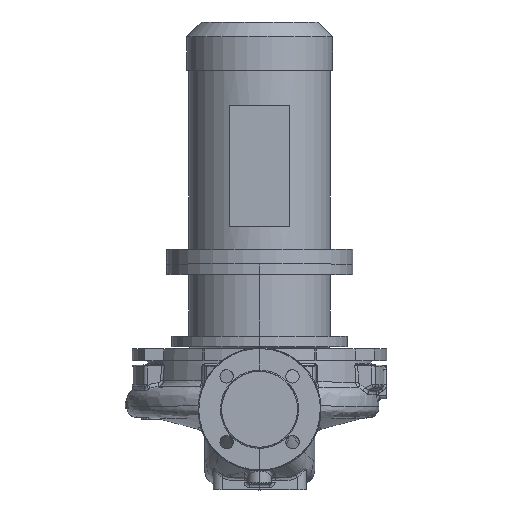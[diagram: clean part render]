
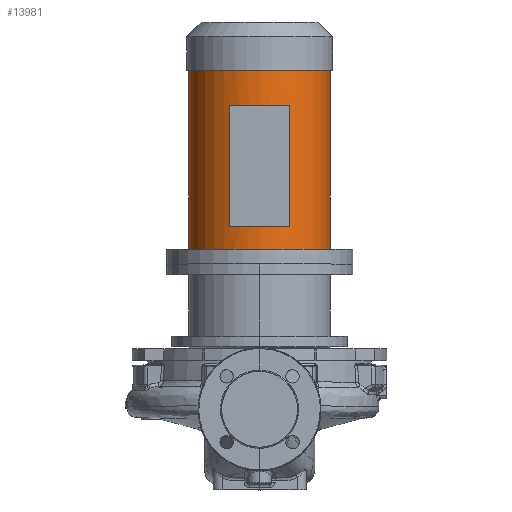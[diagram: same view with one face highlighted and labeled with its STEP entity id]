
A CAD part, top view. The second image highlights one B-rep face of the part: STEP entity #13981.
In plain terms, the highlighted cylindrical face has radius 95 mm (diameter 190 mm), a partial arc.
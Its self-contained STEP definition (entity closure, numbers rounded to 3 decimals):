
#1015 = DIRECTION ( 'NONE',  ( 0., -1., 0. ) ) ;
#1199 = DIRECTION ( 'NONE',  ( 0., -1., 0. ) ) ;
#2867 = DIRECTION ( 'NONE',  ( 0., -1., 0. ) ) ;
#3968 = CARTESIAN_POINT ( 'NONE',  ( -95., 455.3, 0. ) ) ;
#5078 = EDGE_CURVE ( 'NONE', #17536, #20424, #38684, .T. ) ;
#6304 = AXIS2_PLACEMENT_3D ( 'NONE', #75407, #2867, #33208 ) ;
#7262 = VECTOR ( 'NONE', #77972, 1000. ) ;
#7363 = VECTOR ( 'NONE', #59380, 1000. ) ;
#7704 = VERTEX_POINT ( 'NONE', #37218 ) ;
#8232 = AXIS2_PLACEMENT_3D ( 'NONE', #36289, #72943, #71891 ) ;
#9202 = AXIS2_PLACEMENT_3D ( 'NONE', #18943, #1015, #25220 ) ;
#9244 = EDGE_CURVE ( 'NONE', #10898, #34987, #66499, .T. ) ;
#10387 = ORIENTED_EDGE ( 'NONE', *, *, #5078, .T. ) ;
#10898 = VERTEX_POINT ( 'NONE', #45421 ) ;
#13981 = ADVANCED_FACE ( 'NONE', ( #64071, #18821 ), #52704, .T. ) ;
#13993 = CARTESIAN_POINT ( 'NONE',  ( 0., 215.3, 0. ) ) ;
#14274 = DIRECTION ( 'NONE',  ( 0., -1., 0. ) ) ;
#15472 = CARTESIAN_POINT ( 'NONE',  ( -95., 215.3, 0. ) ) ;
#17536 = VERTEX_POINT ( 'NONE', #55886 ) ;
#17790 = EDGE_LOOP ( 'NONE', ( #24924, #38195, #37657, #25066 ) ) ;
#18821 = FACE_OUTER_BOUND ( 'NONE', #69427, .T. ) ;
#18943 = CARTESIAN_POINT ( 'NONE',  ( 0., 195.3, 0. ) ) ;
#18992 = CIRCLE ( 'NONE', #33151, 95. ) ;
#19668 = LINE ( 'NONE', #73221, #63053 ) ;
#20424 = VERTEX_POINT ( 'NONE', #3968 ) ;
#23395 = CARTESIAN_POINT ( 'NONE',  ( -40.5, 195.3, 85.935 ) ) ;
#24924 = ORIENTED_EDGE ( 'NONE', *, *, #9244, .F. ) ;
#25066 = ORIENTED_EDGE ( 'NONE', *, *, #54076, .F. ) ;
#25220 = DIRECTION ( 'NONE',  ( 1., 0., 0. ) ) ;
#27364 = ORIENTED_EDGE ( 'NONE', *, *, #54202, .T. ) ;
#28153 = VERTEX_POINT ( 'NONE', #15472 ) ;
#28965 = AXIS2_PLACEMENT_3D ( 'NONE', #57967, #33994, #64534 ) ;
#29135 = ORIENTED_EDGE ( 'NONE', *, *, #59652, .F. ) ;
#31971 = VECTOR ( 'NONE', #47868, 1000. ) ;
#32814 = CARTESIAN_POINT ( 'NONE',  ( 95., 215.3, 0. ) ) ;
#33151 = AXIS2_PLACEMENT_3D ( 'NONE', #13993, #14274, #56461 ) ;
#33208 = DIRECTION ( 'NONE',  ( 1., 0., 0. ) ) ;
#33637 = CARTESIAN_POINT ( 'NONE',  ( -40.5, 408.3, 85.935 ) ) ;
#33813 = LINE ( 'NONE', #72066, #7363 ) ;
#33994 = DIRECTION ( 'NONE',  ( 0., 1., 0. ) ) ;
#34987 = VERTEX_POINT ( 'NONE', #33637 ) ;
#36289 = CARTESIAN_POINT ( 'NONE',  ( 0., 455.3, 0. ) ) ;
#37218 = CARTESIAN_POINT ( 'NONE',  ( 40.5, 245.3, 85.935 ) ) ;
#37657 = ORIENTED_EDGE ( 'NONE', *, *, #65644, .F. ) ;
#38195 = ORIENTED_EDGE ( 'NONE', *, *, #55392, .F. ) ;
#38684 = CIRCLE ( 'NONE', #8232, 95. ) ;
#42101 = EDGE_CURVE ( 'NONE', #17536, #53203, #33813, .T. ) ;
#45421 = CARTESIAN_POINT ( 'NONE',  ( 40.5, 408.3, 85.935 ) ) ;
#47868 = DIRECTION ( 'NONE',  ( 0., -1., 0. ) ) ;
#48651 = CIRCLE ( 'NONE', #28965, 95. ) ;
#52704 = CYLINDRICAL_SURFACE ( 'NONE', #9202, 95. ) ;
#53203 = VERTEX_POINT ( 'NONE', #32814 ) ;
#54076 = EDGE_CURVE ( 'NONE', #34987, #73294, #60249, .T. ) ;
#54202 = EDGE_CURVE ( 'NONE', #20424, #28153, #19668, .T. ) ;
#55392 = EDGE_CURVE ( 'NONE', #7704, #10898, #71486, .T. ) ;
#55886 = CARTESIAN_POINT ( 'NONE',  ( 95., 455.3, 0. ) ) ;
#56461 = DIRECTION ( 'NONE',  ( 1., 0., 0. ) ) ;
#57967 = CARTESIAN_POINT ( 'NONE',  ( 0., 245.3, 0. ) ) ;
#58444 = CARTESIAN_POINT ( 'NONE',  ( 40.5, 195.3, 85.935 ) ) ;
#59380 = DIRECTION ( 'NONE',  ( 0., -1., 0. ) ) ;
#59652 = EDGE_CURVE ( 'NONE', #53203, #28153, #18992, .T. ) ;
#60249 = LINE ( 'NONE', #23395, #31971 ) ;
#63053 = VECTOR ( 'NONE', #1199, 1000. ) ;
#63998 = ORIENTED_EDGE ( 'NONE', *, *, #42101, .F. ) ;
#64071 = FACE_BOUND ( 'NONE', #17790, .T. ) ;
#64534 = DIRECTION ( 'NONE',  ( -1., 0., 0. ) ) ;
#65133 = CARTESIAN_POINT ( 'NONE',  ( -40.5, 245.3, 85.935 ) ) ;
#65644 = EDGE_CURVE ( 'NONE', #73294, #7704, #48651, .T. ) ;
#66499 = CIRCLE ( 'NONE', #6304, 95. ) ;
#69427 = EDGE_LOOP ( 'NONE', ( #10387, #27364, #29135, #63998 ) ) ;
#71486 = LINE ( 'NONE', #58444, #7262 ) ;
#71891 = DIRECTION ( 'NONE',  ( 1., 0., 0. ) ) ;
#72066 = CARTESIAN_POINT ( 'NONE',  ( 95., 195.3, 0. ) ) ;
#72943 = DIRECTION ( 'NONE',  ( 0., -1., 0. ) ) ;
#73221 = CARTESIAN_POINT ( 'NONE',  ( -95., 195.3, 0. ) ) ;
#73294 = VERTEX_POINT ( 'NONE', #65133 ) ;
#75407 = CARTESIAN_POINT ( 'NONE',  ( 0., 408.3, 0. ) ) ;
#77972 = DIRECTION ( 'NONE',  ( 0., 1., 0. ) ) ;
